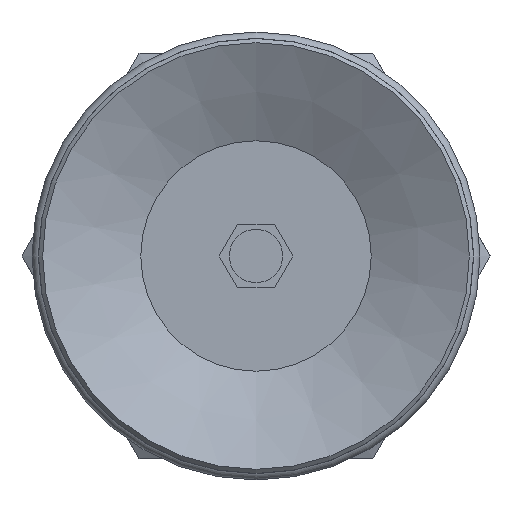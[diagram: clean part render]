
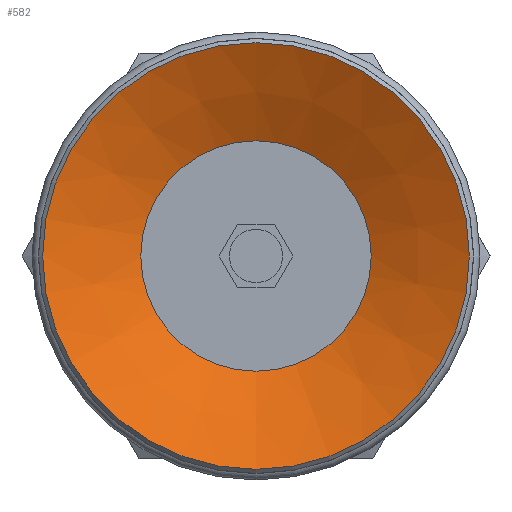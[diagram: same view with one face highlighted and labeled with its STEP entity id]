
A CAD part, front view. The second image highlights one B-rep face of the part: STEP entity #582.
In plain terms, the highlighted conical face has half-angle 63 degrees and reference radius 5.4 mm.
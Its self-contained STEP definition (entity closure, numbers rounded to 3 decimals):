
#582=ADVANCED_FACE('',(#892,#893),#894,.F.);
#892=FACE_BOUND('',#1207,.T.);
#893=FACE_OUTER_BOUND('',#1208,.T.);
#894=CONICAL_SURFACE('',#1209,5.4,1.1);
#1207=EDGE_LOOP('',(#2091));
#1208=EDGE_LOOP('',(#2092));
#1209=AXIS2_PLACEMENT_3D('',#2093,#2094,#2095);
#2091=ORIENTED_EDGE('',*,*,#2350,.F.);
#2092=ORIENTED_EDGE('',*,*,#2355,.T.);
#2093=CARTESIAN_POINT('',(0.0,5.518,0.0));
#2094=DIRECTION('',(-0.0,-1.0,0.));
#2095=DIRECTION('',(0.0,0.,-1.0));
#2350=EDGE_CURVE('',#2768,#2768,#2769,.T.);
#2355=EDGE_CURVE('',#2778,#2778,#2779,.T.);
#2768=VERTEX_POINT('',#3668);
#2769=CIRCLE('',#3669,5.4);
#2778=VERTEX_POINT('',#3678);
#2779=CIRCLE('',#3679,10.0);
#3668=CARTESIAN_POINT('',(0.0,5.518,-5.4));
#3669=AXIS2_PLACEMENT_3D('',#4036,#4037,#4038);
#3678=CARTESIAN_POINT('',(0.0,3.175,-10.0));
#3679=AXIS2_PLACEMENT_3D('',#4051,#4052,#4053);
#4036=CARTESIAN_POINT('',(0.0,5.518,0.0));
#4037=DIRECTION('',(0.0,-1.0,0.));
#4038=DIRECTION('',(0.0,0.,-1.0));
#4051=CARTESIAN_POINT('',(0.0,3.175,0.0));
#4052=DIRECTION('',(0.0,-1.0,0.));
#4053=DIRECTION('',(0.0,0.,-1.0));
